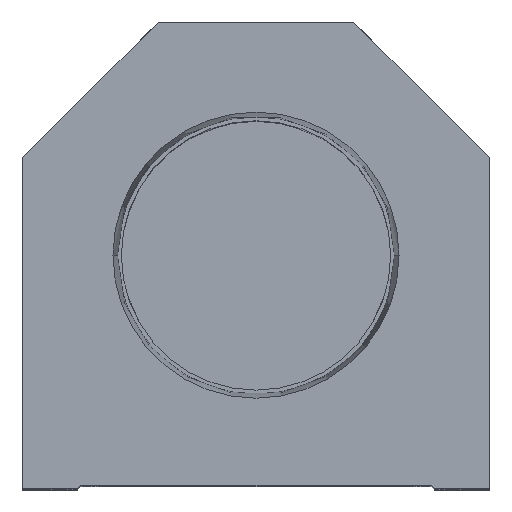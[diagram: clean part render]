
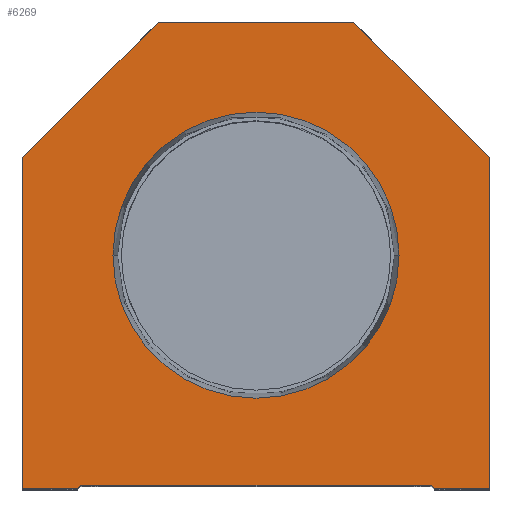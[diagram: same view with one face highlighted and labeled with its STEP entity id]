
A CAD part, top view. The second image highlights one B-rep face of the part: STEP entity #6269.
In plain terms, the highlighted planar face has unit normal (0, 0, 1).
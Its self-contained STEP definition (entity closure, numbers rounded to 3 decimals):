
#190 = DIRECTION ( 'NONE',  ( 0., 0., 1. ) ) ;
#191 = VECTOR ( 'NONE', #8205, 1000. ) ;
#192 = CARTESIAN_POINT ( 'NONE',  ( -28.6, 0.5, 0. ) ) ;
#344 = EDGE_CURVE ( 'NONE', #11561, #14637, #11879, .T. ) ;
#900 = VERTEX_POINT ( 'NONE', #10593 ) ;
#1011 = ORIENTED_EDGE ( 'NONE', *, *, #16455, .T. ) ;
#1119 = VECTOR ( 'NONE', #18094, 1000. ) ;
#1258 = CARTESIAN_POINT ( 'NONE',  ( 28.6, 0.5, 0. ) ) ;
#1452 = DIRECTION ( 'NONE',  ( 0., 1., 0. ) ) ;
#1886 = LINE ( 'NONE', #5218, #191 ) ;
#1937 = FACE_BOUND ( 'NONE', #9790, .T. ) ;
#2083 = CARTESIAN_POINT ( 'NONE',  ( 28.6, 0., 0. ) ) ;
#2111 = EDGE_CURVE ( 'NONE', #12198, #8558, #1886, .T. ) ;
#2151 = VECTOR ( 'NONE', #11644, 1000. ) ;
#2162 = EDGE_CURVE ( 'NONE', #8558, #11263, #10643, .T. ) ;
#2201 = CARTESIAN_POINT ( 'NONE',  ( -23.374, 38.1, 0. ) ) ;
#2340 = ORIENTED_EDGE ( 'NONE', *, *, #17394, .T. ) ;
#2390 = CARTESIAN_POINT ( 'NONE',  ( 38.1, 54.1, 0. ) ) ;
#2448 = AXIS2_PLACEMENT_3D ( 'NONE', #16316, #190, #6142 ) ;
#2519 = CARTESIAN_POINT ( 'NONE',  ( 0., 38.1, 0. ) ) ;
#2634 = VERTEX_POINT ( 'NONE', #4014 ) ;
#3152 = LINE ( 'NONE', #10831, #18435 ) ;
#3592 = AXIS2_PLACEMENT_3D ( 'NONE', #2519, #17301, #9927 ) ;
#3719 = VERTEX_POINT ( 'NONE', #13959 ) ;
#4014 = CARTESIAN_POINT ( 'NONE',  ( 38.1, 0., 0. ) ) ;
#4127 = LINE ( 'NONE', #7026, #2151 ) ;
#4146 = LINE ( 'NONE', #13132, #5173 ) ;
#4420 = PLANE ( 'NONE',  #14989 ) ;
#4562 = CARTESIAN_POINT ( 'NONE',  ( -28.6, 0., 0. ) ) ;
#5173 = VECTOR ( 'NONE', #5518, 1000. ) ;
#5218 = CARTESIAN_POINT ( 'NONE',  ( -38.1, 0., 0. ) ) ;
#5518 = DIRECTION ( 'NONE',  ( -1., 0., 0. ) ) ;
#5593 = ORIENTED_EDGE ( 'NONE', *, *, #344, .F. ) ;
#5665 = LINE ( 'NONE', #192, #12898 ) ;
#5729 = CARTESIAN_POINT ( 'NONE',  ( -29.1, 0., 0. ) ) ;
#5904 = ORIENTED_EDGE ( 'NONE', *, *, #2162, .T. ) ;
#6142 = DIRECTION ( 'NONE',  ( 1., 0., 0. ) ) ;
#6269 = ADVANCED_FACE ( 'NONE', ( #1937, #10513 ), #4420, .T. ) ;
#6435 = CARTESIAN_POINT ( 'NONE',  ( -28.6, 0.5, 0. ) ) ;
#6565 = ORIENTED_EDGE ( 'NONE', *, *, #9115, .T. ) ;
#6723 = CIRCLE ( 'NONE', #2448, 23.374 ) ;
#6796 = ORIENTED_EDGE ( 'NONE', *, *, #9575, .T. ) ;
#7012 = ORIENTED_EDGE ( 'NONE', *, *, #11340, .T. ) ;
#7013 = VECTOR ( 'NONE', #15425, 1000. ) ;
#7026 = CARTESIAN_POINT ( 'NONE',  ( -14.55, 14.55, 0. ) ) ;
#7473 = CARTESIAN_POINT ( 'NONE',  ( -16., 76.2, 0. ) ) ;
#7861 = LINE ( 'NONE', #2390, #7013 ) ;
#7972 = EDGE_CURVE ( 'NONE', #900, #2634, #18584, .T. ) ;
#8205 = DIRECTION ( 'NONE',  ( 0., -1., 0. ) ) ;
#8327 = CARTESIAN_POINT ( 'NONE',  ( -38.1, 54.1, 0. ) ) ;
#8558 = VERTEX_POINT ( 'NONE', #18649 ) ;
#9065 = DIRECTION ( 'NONE',  ( 0., 0., 1. ) ) ;
#9115 = EDGE_CURVE ( 'NONE', #10423, #12838, #4146, .T. ) ;
#9242 = ORIENTED_EDGE ( 'NONE', *, *, #18382, .F. ) ;
#9416 = ORIENTED_EDGE ( 'NONE', *, *, #2111, .T. ) ;
#9575 = EDGE_CURVE ( 'NONE', #15386, #16926, #5665, .T. ) ;
#9790 = EDGE_LOOP ( 'NONE', ( #5593, #9242 ) ) ;
#9927 = DIRECTION ( 'NONE',  ( 1., 0., 0. ) ) ;
#10028 = CARTESIAN_POINT ( 'NONE',  ( 16., 76.2, 0. ) ) ;
#10415 = EDGE_CURVE ( 'NONE', #11263, #15386, #4127, .T. ) ;
#10423 = VERTEX_POINT ( 'NONE', #10028 ) ;
#10498 = DIRECTION ( 'NONE',  ( 1., 0., 0. ) ) ;
#10513 = FACE_OUTER_BOUND ( 'NONE', #18778, .T. ) ;
#10593 = CARTESIAN_POINT ( 'NONE',  ( 29.1, 0., 0. ) ) ;
#10614 = CARTESIAN_POINT ( 'NONE',  ( 23.374, 38.1, 0. ) ) ;
#10643 = LINE ( 'NONE', #4562, #1119 ) ;
#10831 = CARTESIAN_POINT ( 'NONE',  ( 14.55, 14.55, 0. ) ) ;
#11052 = CARTESIAN_POINT ( 'NONE',  ( -38.1, 54.1, 0. ) ) ;
#11263 = VERTEX_POINT ( 'NONE', #5729 ) ;
#11340 = EDGE_CURVE ( 'NONE', #16926, #900, #3152, .T. ) ;
#11473 = DIRECTION ( 'NONE',  ( -0.707, -0.707, 0. ) ) ;
#11561 = VERTEX_POINT ( 'NONE', #10614 ) ;
#11644 = DIRECTION ( 'NONE',  ( 0.707, 0.707, 0. ) ) ;
#11879 = CIRCLE ( 'NONE', #3592, 23.374 ) ;
#12198 = VERTEX_POINT ( 'NONE', #11052 ) ;
#12567 = VECTOR ( 'NONE', #11473, 1000. ) ;
#12683 = DIRECTION ( 'NONE',  ( 1., 0., 0. ) ) ;
#12838 = VERTEX_POINT ( 'NONE', #7473 ) ;
#12898 = VECTOR ( 'NONE', #10498, 1000. ) ;
#13101 = LINE ( 'NONE', #18991, #17497 ) ;
#13132 = CARTESIAN_POINT ( 'NONE',  ( 16., 76.2, 0. ) ) ;
#13315 = CARTESIAN_POINT ( 'NONE',  ( 0., 0., 0. ) ) ;
#13453 = DIRECTION ( 'NONE',  ( 0.707, -0.707, 0. ) ) ;
#13959 = CARTESIAN_POINT ( 'NONE',  ( 38.1, 54.1, 0. ) ) ;
#14637 = VERTEX_POINT ( 'NONE', #2201 ) ;
#14676 = EDGE_CURVE ( 'NONE', #3719, #10423, #7861, .T. ) ;
#14989 = AXIS2_PLACEMENT_3D ( 'NONE', #13315, #9065, #17884 ) ;
#15319 = VECTOR ( 'NONE', #12683, 1000. ) ;
#15386 = VERTEX_POINT ( 'NONE', #6435 ) ;
#15425 = DIRECTION ( 'NONE',  ( -0.707, 0.707, 0. ) ) ;
#16316 = CARTESIAN_POINT ( 'NONE',  ( 0., 38.1, 0. ) ) ;
#16455 = EDGE_CURVE ( 'NONE', #2634, #3719, #13101, .T. ) ;
#16926 = VERTEX_POINT ( 'NONE', #1258 ) ;
#17251 = ORIENTED_EDGE ( 'NONE', *, *, #14676, .T. ) ;
#17301 = DIRECTION ( 'NONE',  ( 0., 0., 1. ) ) ;
#17394 = EDGE_CURVE ( 'NONE', #12838, #12198, #18854, .T. ) ;
#17497 = VECTOR ( 'NONE', #1452, 1000. ) ;
#17803 = ORIENTED_EDGE ( 'NONE', *, *, #10415, .T. ) ;
#17884 = DIRECTION ( 'NONE',  ( 1., 0., 0. ) ) ;
#18094 = DIRECTION ( 'NONE',  ( 1., 0., 0. ) ) ;
#18147 = ORIENTED_EDGE ( 'NONE', *, *, #7972, .T. ) ;
#18382 = EDGE_CURVE ( 'NONE', #14637, #11561, #6723, .T. ) ;
#18435 = VECTOR ( 'NONE', #13453, 1000. ) ;
#18584 = LINE ( 'NONE', #2083, #15319 ) ;
#18649 = CARTESIAN_POINT ( 'NONE',  ( -38.1, 0., 0. ) ) ;
#18778 = EDGE_LOOP ( 'NONE', ( #5904, #17803, #6796, #7012, #18147, #1011, #17251, #6565, #2340, #9416 ) ) ;
#18854 = LINE ( 'NONE', #8327, #12567 ) ;
#18991 = CARTESIAN_POINT ( 'NONE',  ( 38.1, 0., 0. ) ) ;
